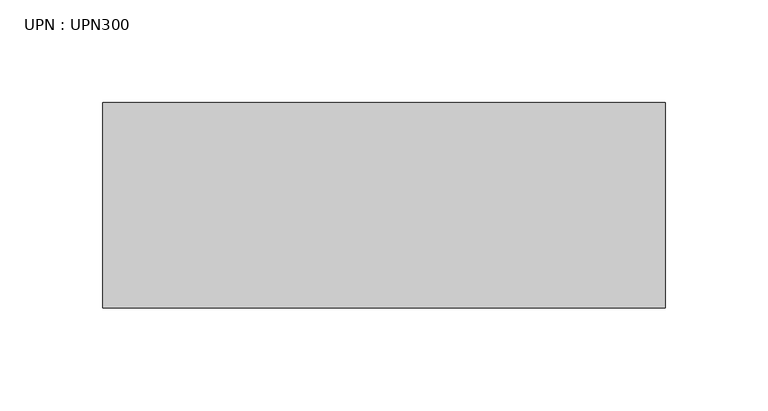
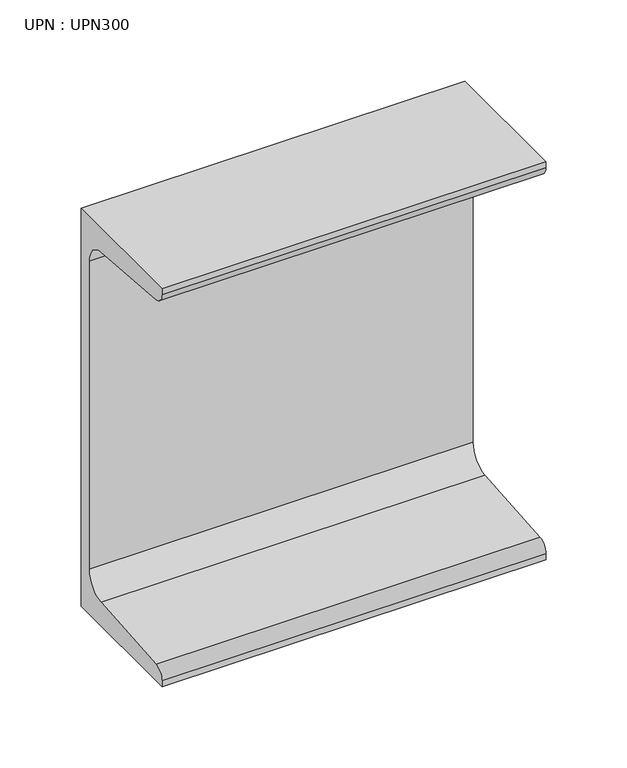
"""IFC4 building model written with IfcOpenShell, lengths in millimetres: beam geometry, UPN : UPN300."""

from ifc_helpers import new_model, si_unit, point, frame, frame_2d, origin, place, context, project, spatial, polyline, circle_curve, trimmed, segment, composite_curve, outline, extrude, source, transform, mapped, element, save


def upn_upn300_1bd66e09(model_context):
    return source(origin(), model_context, "Body", "SweptSolid", [
        extrude(outline(composite_curve([segment(polyline([(27.0, 150.0), (27.0, -150.0), (-73.0, -150.0), (-73.0, -145.3826224)]), True, "CONTINUOUS"), segment(trimmed(circle_curve(frame_2d((-65.0, -145.3826224)), 8.0), [point((-73.0, -145.3826224))], [point((-65.637416, -137.4080566))], False, "CARTESIAN"), True, "CONTINUOUS"), segment(polyline([(-65.637416, -137.4080566), (2.274832, -131.9797543)]), True, "CONTINUOUS"), segment(trimmed(circle_curve(frame_2d((1.0, -116.0306225)), 16.0), [point((2.274832, -131.9797543))], [point((17.0, -116.0306225))], True, "CARTESIAN"), True, "CONTINUOUS"), segment(polyline([(17.0, -116.0306225), (17.0, 116.0306225)]), True, "CONTINUOUS"), segment(trimmed(circle_curve(frame_2d((1.0, 116.0306225)), 16.0), [point((17.0, 116.0306225))], [point((2.274832, 131.9797543))], True, "CARTESIAN"), True, "CONTINUOUS"), segment(polyline([(2.274832, 131.9797543), (-65.637416, 137.4080566)]), True, "CONTINUOUS"), segment(trimmed(circle_curve(frame_2d((-65.0, 145.3826224)), 8.0), [point((-65.637416, 137.4080566))], [point((-73.0, 145.3826224))], False, "CARTESIAN"), True, "CONTINUOUS"), segment(polyline([(-73.0, 145.3826224), (-73.0, 150.0), (27.0, 150.0)]), True, "CONTINUOUS")], self_intersect=False)), frame((-98.4, 0.0, 0.0), z_axis=(1.0, 0.0, 0.0), x_axis=(0.0, 1.0, 0.0)), (0.0, 0.0, 1.0), 273.8),
    ])


if __name__ == "__main__":
    model = new_model("IFC4")
    model_context = context("Model", 3, world=origin())
    ifc_project = project(units=[si_unit("LENGTHUNIT", "METRE", prefix="MILLI")], contexts=[model_context])
    site = spatial("IfcSite", under=ifc_project)
    building = spatial("IfcBuilding", under=site)
    placement = place(None, origin())
    upn_upn300_shape = upn_upn300_1bd66e09(model_context)
    element("IfcBeam", 1, ObjectType="UPN : UPN300", at=placement, inside=building, context=model_context, shape_type="MappedRepresentation", body=[
        mapped(upn_upn300_shape, transform((0.0, 0.0, 0.0), x_axis=(1.0, 0.0, 0.0), y_axis=(0.0, 1.0, 0.0), z_axis=(0.0, 0.0, 1.0))),
    ])
    save(model, "model.ifc")
